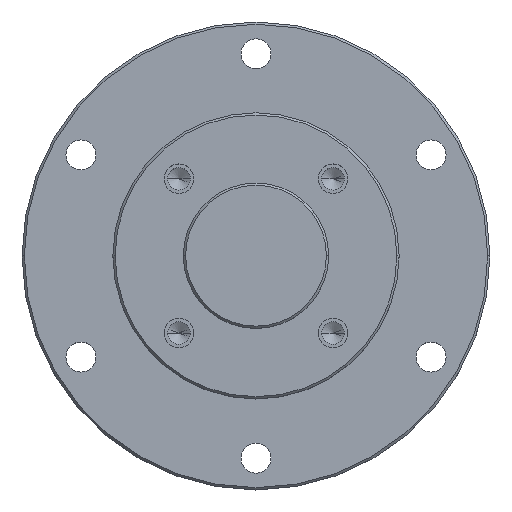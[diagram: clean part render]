
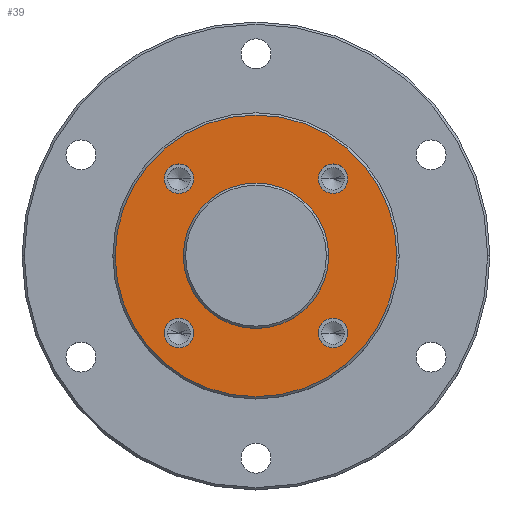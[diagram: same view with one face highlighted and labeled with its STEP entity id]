
A CAD part, top view. The second image highlights one B-rep face of the part: STEP entity #39.
In plain terms, the highlighted planar face has unit normal (0, 0, 1).
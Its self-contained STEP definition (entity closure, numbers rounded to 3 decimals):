
#35 = EDGE_CURVE ( 'NONE', #4059, #2131, #1245, .T. ) ;
#38 = AXIS2_PLACEMENT_3D ( 'NONE', #3340, #883, #3763 ) ;
#39 = ADVANCED_FACE ( 'NONE', ( #3556, #2299, #4389, #3303, #2171, #1103 ), #1094, .F. ) ;
#44 = AXIS2_PLACEMENT_3D ( 'NONE', #3828, #1361, #4234 ) ;
#161 = EDGE_LOOP ( 'NONE', ( #2904, #4765 ) ) ;
#213 = DIRECTION ( 'NONE',  ( 0., 0., 1. ) ) ;
#226 = DIRECTION ( 'NONE',  ( 1., 0., 0. ) ) ;
#277 = CARTESIAN_POINT ( 'NONE',  ( -20.221, -16.971, 0. ) ) ;
#366 = EDGE_CURVE ( 'NONE', #2784, #5228, #4187, .T. ) ;
#438 = CARTESIAN_POINT ( 'NONE',  ( 16.971, 16.971, 0. ) ) ;
#450 = AXIS2_PLACEMENT_3D ( 'NONE', #2644, #213, #3069 ) ;
#500 = CIRCLE ( 'NONE', #2485, 31. ) ;
#541 = VERTEX_POINT ( 'NONE', #4382 ) ;
#573 = CARTESIAN_POINT ( 'NONE',  ( 16.971, -16.971, 0. ) ) ;
#598 = ORIENTED_EDGE ( 'NONE', *, *, #3405, .F. ) ;
#638 = DIRECTION ( 'NONE',  ( 0., 0., 1. ) ) ;
#719 = CARTESIAN_POINT ( 'NONE',  ( -13.721, 16.971, 0. ) ) ;
#758 = CARTESIAN_POINT ( 'NONE',  ( 20.221, 16.971, 0. ) ) ;
#765 = VERTEX_POINT ( 'NONE', #4428 ) ;
#789 = VERTEX_POINT ( 'NONE', #758 ) ;
#829 = VERTEX_POINT ( 'NONE', #1997 ) ;
#844 = DIRECTION ( 'NONE',  ( -1., 0., 0. ) ) ;
#883 = DIRECTION ( 'NONE',  ( 0., 0., 1. ) ) ;
#889 = ORIENTED_EDGE ( 'NONE', *, *, #1220, .F. ) ;
#972 = DIRECTION ( 'NONE',  ( 1., 0., 0. ) ) ;
#977 = AXIS2_PLACEMENT_3D ( 'NONE', #3084, #638, #3514 ) ;
#994 = CARTESIAN_POINT ( 'NONE',  ( 13.721, 16.971, 0. ) ) ;
#1016 = DIRECTION ( 'NONE',  ( 0., 0., 1. ) ) ;
#1094 = PLANE ( 'NONE',  #2863 ) ;
#1103 = FACE_BOUND ( 'NONE', #161, .T. ) ;
#1113 = DIRECTION ( 'NONE',  ( 0., 0., -1. ) ) ;
#1140 = EDGE_CURVE ( 'NONE', #3450, #765, #2149, .T. ) ;
#1176 = VERTEX_POINT ( 'NONE', #994 ) ;
#1220 = EDGE_CURVE ( 'NONE', #5228, #2784, #3983, .T. ) ;
#1240 = ORIENTED_EDGE ( 'NONE', *, *, #35, .F. ) ;
#1245 = CIRCLE ( 'NONE', #1751, 3.25 ) ;
#1250 = EDGE_CURVE ( 'NONE', #4223, #541, #4998, .T. ) ;
#1294 = VERTEX_POINT ( 'NONE', #4045 ) ;
#1333 = ORIENTED_EDGE ( 'NONE', *, *, #2360, .T. ) ;
#1361 = DIRECTION ( 'NONE',  ( 0., 0., 1. ) ) ;
#1480 = DIRECTION ( 'NONE',  ( 0., 0., 1. ) ) ;
#1565 = CIRCLE ( 'NONE', #2071, 3.25 ) ;
#1601 = AXIS2_PLACEMENT_3D ( 'NONE', #5195, #2655, #226 ) ;
#1643 = DIRECTION ( 'NONE',  ( 0., 0., 1. ) ) ;
#1690 = EDGE_LOOP ( 'NONE', ( #2583, #3860 ) ) ;
#1751 = AXIS2_PLACEMENT_3D ( 'NONE', #4837, #2306, #5278 ) ;
#1815 = CIRCLE ( 'NONE', #44, 16. ) ;
#1872 = ORIENTED_EDGE ( 'NONE', *, *, #366, .F. ) ;
#1997 = CARTESIAN_POINT ( 'NONE',  ( 31., 0., 0. ) ) ;
#2020 = EDGE_LOOP ( 'NONE', ( #1240, #2406 ) ) ;
#2071 = AXIS2_PLACEMENT_3D ( 'NONE', #4729, #2202, #5155 ) ;
#2131 = VERTEX_POINT ( 'NONE', #4093 ) ;
#2149 = CIRCLE ( 'NONE', #3847, 3.25 ) ;
#2171 = FACE_BOUND ( 'NONE', #1690, .T. ) ;
#2202 = DIRECTION ( 'NONE',  ( 0., 0., 1. ) ) ;
#2299 = FACE_BOUND ( 'NONE', #2020, .T. ) ;
#2306 = DIRECTION ( 'NONE',  ( 0., 0., 1. ) ) ;
#2360 = EDGE_CURVE ( 'NONE', #1294, #829, #4576, .T. ) ;
#2406 = ORIENTED_EDGE ( 'NONE', *, *, #3899, .F. ) ;
#2485 = AXIS2_PLACEMENT_3D ( 'NONE', #3478, #1016, #3895 ) ;
#2583 = ORIENTED_EDGE ( 'NONE', *, *, #1140, .F. ) ;
#2620 = CARTESIAN_POINT ( 'NONE',  ( 20.221, -16.971, 0. ) ) ;
#2631 = CIRCLE ( 'NONE', #2678, 3.25 ) ;
#2644 = CARTESIAN_POINT ( 'NONE',  ( -16.971, -16.971, 0. ) ) ;
#2655 = DIRECTION ( 'NONE',  ( 0., 0., 1. ) ) ;
#2678 = AXIS2_PLACEMENT_3D ( 'NONE', #3950, #1480, #4363 ) ;
#2770 = CARTESIAN_POINT ( 'NONE',  ( -13.721, -16.971, 0. ) ) ;
#2784 = VERTEX_POINT ( 'NONE', #277 ) ;
#2863 = AXIS2_PLACEMENT_3D ( 'NONE', #4385, #1113, #3993 ) ;
#2904 = ORIENTED_EDGE ( 'NONE', *, *, #1250, .F. ) ;
#3026 = CIRCLE ( 'NONE', #1601, 3.25 ) ;
#3069 = DIRECTION ( 'NONE',  ( -1., 0., 0. ) ) ;
#3084 = CARTESIAN_POINT ( 'NONE',  ( 0., 0., 0. ) ) ;
#3300 = DIRECTION ( 'NONE',  ( 0., 0., 1. ) ) ;
#3303 = FACE_BOUND ( 'NONE', #3449, .T. ) ;
#3340 = CARTESIAN_POINT ( 'NONE',  ( 0., 0., 0. ) ) ;
#3405 = EDGE_CURVE ( 'NONE', #1176, #789, #1565, .T. ) ;
#3437 = DIRECTION ( 'NONE',  ( 0., 0., 1. ) ) ;
#3449 = EDGE_LOOP ( 'NONE', ( #3666, #598 ) ) ;
#3450 = VERTEX_POINT ( 'NONE', #2620 ) ;
#3478 = CARTESIAN_POINT ( 'NONE',  ( 0., 0., 0. ) ) ;
#3514 = DIRECTION ( 'NONE',  ( 1., 0., 0. ) ) ;
#3556 = FACE_OUTER_BOUND ( 'NONE', #4128, .T. ) ;
#3583 = ORIENTED_EDGE ( 'NONE', *, *, #4460, .T. ) ;
#3666 = ORIENTED_EDGE ( 'NONE', *, *, #5351, .F. ) ;
#3763 = DIRECTION ( 'NONE',  ( -1., 0., 0. ) ) ;
#3828 = CARTESIAN_POINT ( 'NONE',  ( 0., 0., 0. ) ) ;
#3847 = AXIS2_PLACEMENT_3D ( 'NONE', #573, #3437, #972 ) ;
#3860 = ORIENTED_EDGE ( 'NONE', *, *, #3969, .F. ) ;
#3895 = DIRECTION ( 'NONE',  ( -1., 0., 0. ) ) ;
#3899 = EDGE_CURVE ( 'NONE', #2131, #4059, #3026, .T. ) ;
#3950 = CARTESIAN_POINT ( 'NONE',  ( 16.971, -16.971, 0. ) ) ;
#3969 = EDGE_CURVE ( 'NONE', #765, #3450, #2631, .T. ) ;
#3983 = CIRCLE ( 'NONE', #450, 3.25 ) ;
#3993 = DIRECTION ( 'NONE',  ( -1., 0., 0. ) ) ;
#4045 = CARTESIAN_POINT ( 'NONE',  ( -31., 0., 0. ) ) ;
#4059 = VERTEX_POINT ( 'NONE', #719 ) ;
#4093 = CARTESIAN_POINT ( 'NONE',  ( -20.221, 16.971, 0. ) ) ;
#4109 = CARTESIAN_POINT ( 'NONE',  ( -16.971, -16.971, 0. ) ) ;
#4128 = EDGE_LOOP ( 'NONE', ( #1333, #3583 ) ) ;
#4152 = AXIS2_PLACEMENT_3D ( 'NONE', #4109, #1643, #4533 ) ;
#4187 = CIRCLE ( 'NONE', #4152, 3.25 ) ;
#4223 = VERTEX_POINT ( 'NONE', #4592 ) ;
#4234 = DIRECTION ( 'NONE',  ( 1., 0., 0. ) ) ;
#4363 = DIRECTION ( 'NONE',  ( 1., 0., 0. ) ) ;
#4373 = EDGE_CURVE ( 'NONE', #541, #4223, #1815, .T. ) ;
#4382 = CARTESIAN_POINT ( 'NONE',  ( -16., 0., 0. ) ) ;
#4385 = CARTESIAN_POINT ( 'NONE',  ( 0., 31.5, 0. ) ) ;
#4389 = FACE_BOUND ( 'NONE', #4858, .T. ) ;
#4428 = CARTESIAN_POINT ( 'NONE',  ( 13.721, -16.971, 0. ) ) ;
#4460 = EDGE_CURVE ( 'NONE', #829, #1294, #500, .T. ) ;
#4533 = DIRECTION ( 'NONE',  ( -1., 0., 0. ) ) ;
#4576 = CIRCLE ( 'NONE', #38, 31. ) ;
#4592 = CARTESIAN_POINT ( 'NONE',  ( 16., 0., 0. ) ) ;
#4700 = AXIS2_PLACEMENT_3D ( 'NONE', #438, #3300, #844 ) ;
#4729 = CARTESIAN_POINT ( 'NONE',  ( 16.971, 16.971, 0. ) ) ;
#4765 = ORIENTED_EDGE ( 'NONE', *, *, #4373, .F. ) ;
#4817 = CIRCLE ( 'NONE', #4700, 3.25 ) ;
#4837 = CARTESIAN_POINT ( 'NONE',  ( -16.971, 16.971, 0. ) ) ;
#4858 = EDGE_LOOP ( 'NONE', ( #889, #1872 ) ) ;
#4998 = CIRCLE ( 'NONE', #977, 16. ) ;
#5155 = DIRECTION ( 'NONE',  ( -1., 0., 0. ) ) ;
#5195 = CARTESIAN_POINT ( 'NONE',  ( -16.971, 16.971, 0. ) ) ;
#5228 = VERTEX_POINT ( 'NONE', #2770 ) ;
#5278 = DIRECTION ( 'NONE',  ( 1., 0., 0. ) ) ;
#5351 = EDGE_CURVE ( 'NONE', #789, #1176, #4817, .T. ) ;
